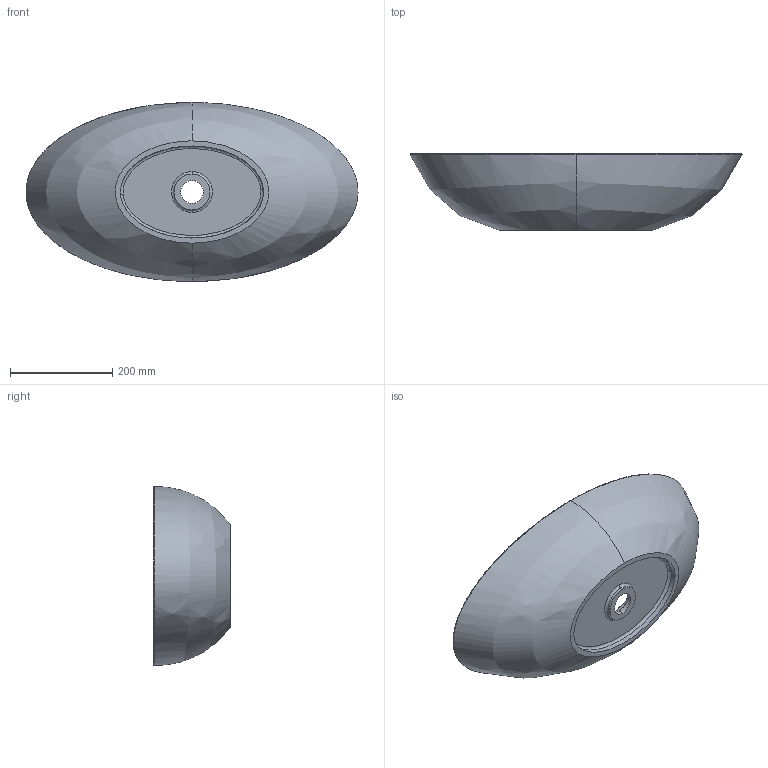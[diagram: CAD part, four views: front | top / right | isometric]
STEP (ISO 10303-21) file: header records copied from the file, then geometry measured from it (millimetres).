
FILE_DESCRIPTION (( 'STEP AP203' ), '1' );
FILE_NAME ('E1.STEP', '2014-07-15T06:25:18', ( 'Sky123.Org' ), ( 'Sky123.Org' ), 'SwSTEP 2.0', 'SolidWorks 2014', '' );
FILE_SCHEMA (( 'CONFIG_CONTROL_DESIGN' ));
Length unit declared in the file: millimetre
Products named in the file (1): E1
Bounding box: 649.07 x 149.87 x 350.04 mm (x, y, z)
Volume: 4705751.3 mm3; surface area: 581282.5 mm2
Topology: 1 solids, 1 shells, 25 faces, 60 edges, 38 vertices
Faces by surface type: bspline 14, cylinder 4, plane 3, torus 2, cone 2
Entity records: 9427 total; most frequent: CARTESIAN_POINT 8864, ORIENTED_EDGE 120, DIRECTION 70, EDGE_CURVE 60, VERTEX_POINT 38, B_SPLINE_CURVE_WITH_KNOTS 32, AXIS2_PLACEMENT_3D 32, EDGE_LOOP 28
